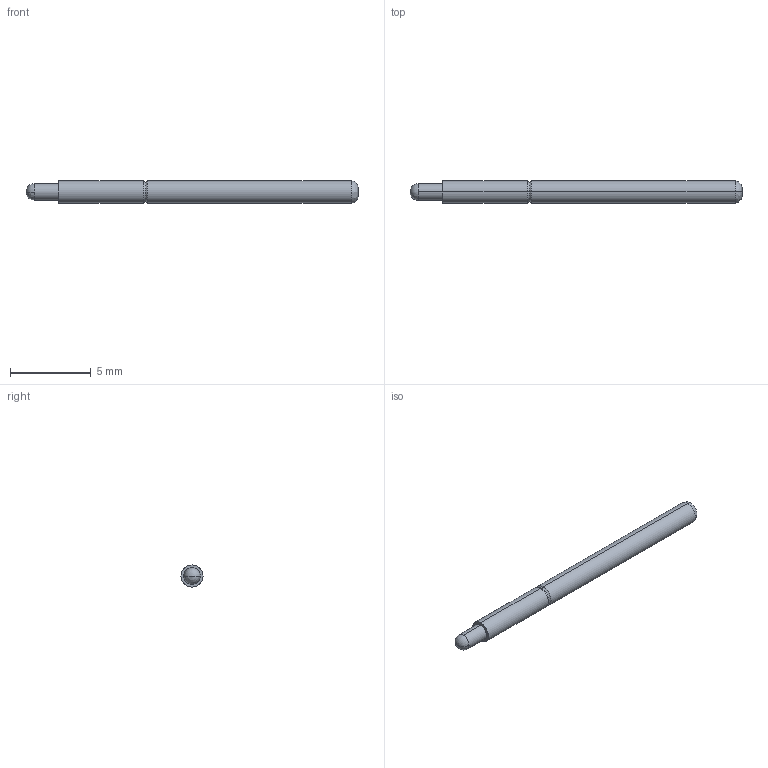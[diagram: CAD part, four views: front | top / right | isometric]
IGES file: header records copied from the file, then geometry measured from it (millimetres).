
Start section: SolidWorks IGES file using analytic representation for surfaces
Global section: file name: Z:\probe solid model mockups\Solidworks models\IGES Files\EPA-2\EPA-2J40 Full.IGS; native system: SolidWorks 2006 by SolidWorks Corporation; preprocessor: SolidWorks 2006 by SolidWorks Corporation; author: tsakatani; date: 071220.162242; units: inch
Bounding box: 20.57 x 1.37 x 1.37 mm (x, y, z)
Surface area: 87.8 mm2 (no closed solid volume)
Topology: 0 solids, 0 shells, 16 faces, 108 edges, 106 vertices
Faces by surface type: bspline 8, revolution 8
